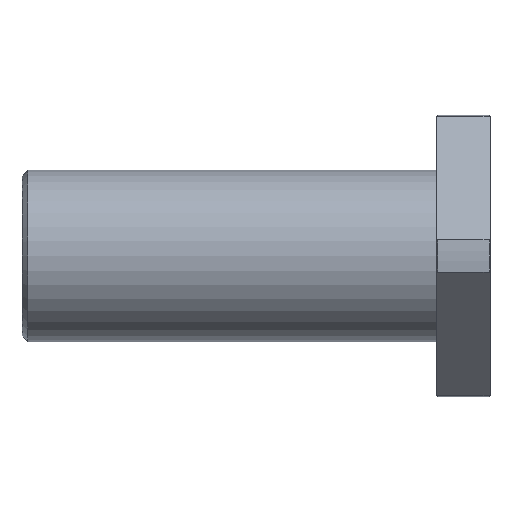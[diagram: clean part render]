
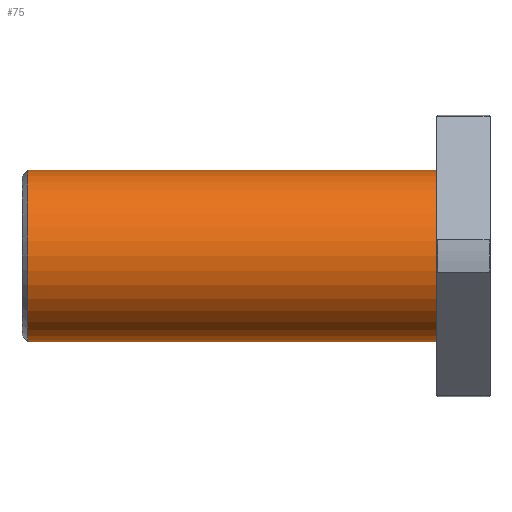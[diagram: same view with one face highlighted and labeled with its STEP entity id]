
A CAD part, front view. The second image highlights one B-rep face of the part: STEP entity #75.
In plain terms, the highlighted cylindrical face has radius 22.5 mm (diameter 45 mm), a full revolution.
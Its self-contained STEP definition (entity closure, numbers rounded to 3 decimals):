
#75=ADVANCED_FACE('',(#110,#111),#112,.T.);
#110=FACE_OUTER_BOUND('',#204,.T.);
#111=FACE_OUTER_BOUND('',#205,.T.);
#112=CYLINDRICAL_SURFACE('',#206,22.5);
#204=EDGE_LOOP('',(#298));
#205=EDGE_LOOP('',(#299));
#206=AXIS2_PLACEMENT_3D('',#300,#301,#302);
#298=ORIENTED_EDGE('',*,*,#538,.F.);
#299=ORIENTED_EDGE('',*,*,#539,.F.);
#300=CARTESIAN_POINT('',(-14.0,0.0,0.0));
#301=DIRECTION('',(1.0,-0.0,-0.0));
#302=DIRECTION('',(0.0,0.0,1.0));
#538=EDGE_CURVE('',#607,#607,#608,.T.);
#539=EDGE_CURVE('',#609,#609,#610,.T.);
#607=VERTEX_POINT('',#729);
#608=CIRCLE('',#730,22.5);
#609=VERTEX_POINT('',#731);
#610=CIRCLE('',#732,22.5);
#729=CARTESIAN_POINT('',(-14.0,0.0,-22.5));
#730=AXIS2_PLACEMENT_3D('',#915,#916,#917);
#731=CARTESIAN_POINT('',(-121.5,0.0,22.5));
#732=AXIS2_PLACEMENT_3D('',#918,#919,#920);
#915=CARTESIAN_POINT('',(-14.0,0.0,0.0));
#916=DIRECTION('',(1.0,0.0,0.0));
#917=DIRECTION('',(0.0,0.0,-1.0));
#918=CARTESIAN_POINT('',(-121.5,0.0,0.0));
#919=DIRECTION('',(-1.0,0.0,0.0));
#920=DIRECTION('',(0.0,0.0,1.0));
